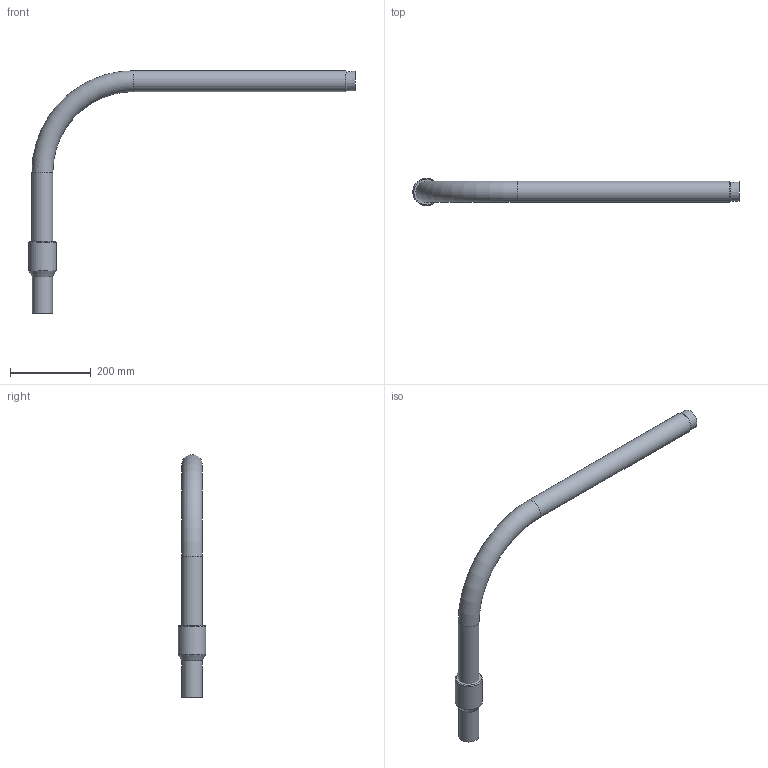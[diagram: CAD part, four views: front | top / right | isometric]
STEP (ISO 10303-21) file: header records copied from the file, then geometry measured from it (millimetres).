
FILE_DESCRIPTION(/* description */ ('Unknown'),/* implementation_level */ '2;1');
FILE_NAME(/* name */ 'RTFZCRP050C',/* time_stamp */ '2022-07-14T11:15:41+02:00',/* author */ ('Unknown'),/* organization */ ('Unknown'),/* preprocessor_version */ 'ST-DEVELOPER v18.102',/* originating_system */ 'Solid Edge',/* authorisation */ 'Unknown');
FILE_SCHEMA (('AUTOMOTIVE_DESIGN {1 0 10303 214 3 1 1}'));
Length unit declared in the file: millimetre
Products named in the file (3): RTFZCRP050C; Parte Acciaio; Parte PE
Assembly tree (2 placements, depth 2):
  RTFZCRP050C
    Parte Acciaio
    Parte PE
Bounding box: 809.02 x 67.93 x 600.95 mm (x, y, z)
Volume: 1049501 mm3; surface area: 399735.4 mm2
Topology: 2 solids, 2 shells, 19 faces, 34 edges, 20 vertices
Faces by surface type: cylinder 8, plane 5, torus 3, cone 3
Full cylindrical faces by diameter (mm): 40.8 x1, 41.9 x2, 48.3 x1, 50 x1, 51.9 x2, 68 x1
Entity records: 532 total; most frequent: DIRECTION 82, CARTESIAN_POINT 60, AXIS2_PLACEMENT_3D 41, ORIENTED_EDGE 38, EDGE_LOOP 38, FACE_BOUND 38, EDGE_CURVE 19, VERTEX_POINT 19
